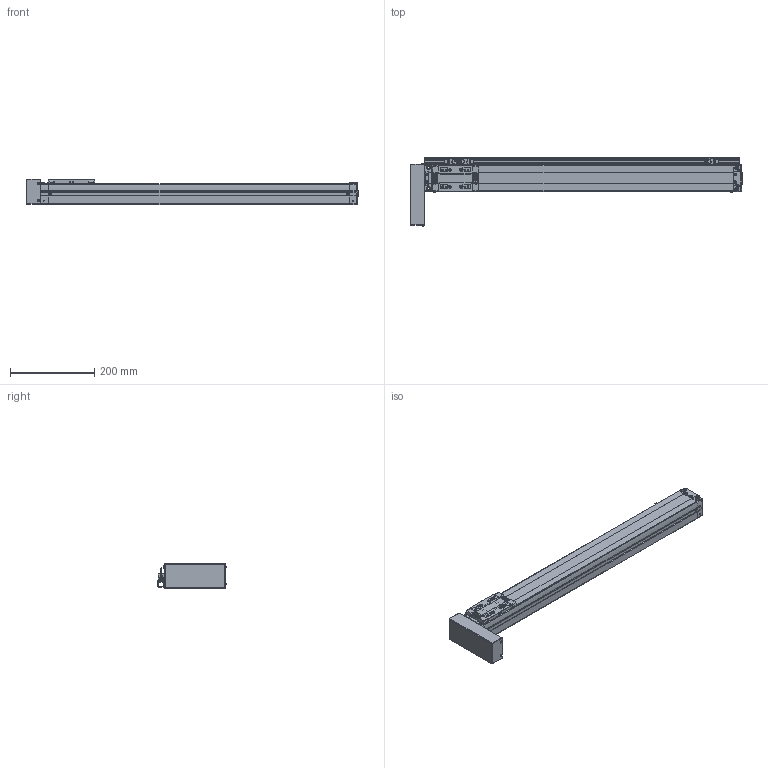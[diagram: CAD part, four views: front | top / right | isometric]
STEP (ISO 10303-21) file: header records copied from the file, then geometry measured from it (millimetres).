
FILE_DESCRIPTION(('STEP AP203'),'1');
FILE_NAME('Z:/Web/3D/SAN65/2012.ver/STP/600/SAN65ㅁㅁ-600PR+3SL.stp','2014-06-13T04:46:06',(' '),(' '),'Spatial InterOp 3D',' ',' ');
FILE_SCHEMA(('CONFIG_CONTROL_DESIGN'));
Length unit declared in the file: millimetre
Products named in the file (46): 1; 2; 3; 4; 5; 6; 7; 8; 9; 10; 11; 12; 13; 14; 15; 16; 17; 18; 19; 20; 21; 22; 23; 24; 25; 26; 27; 28; 29; 30; 31; 32; 33; 34; 35; 36; 37; 38; 39; 40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
Bounding box: 790.15 x 162.06 x 61 mm (x, y, z)
Volume: 2772135.8 mm3; surface area: 388788.8 mm2
Topology: 46 solids, 46 shells, 2324 faces, 6050 edges, 3901 vertices
Faces by surface type: plane 1292, cylinder 721, cone 199, sphere 60, bspline 28, torus 18, extrusion 6
Full cylindrical faces by diameter (mm): 2.132 x1, 3.5 x2, 6 x2
Entity records: 75593 total; most frequent: CARTESIAN_POINT 15271, DIRECTION 12522, ORIENTED_EDGE 11892, EDGE_CURVE 5946, AXIS2_PLACEMENT_3D 4348, VERTEX_POINT 3900, VECTOR 3826, LINE 3820
